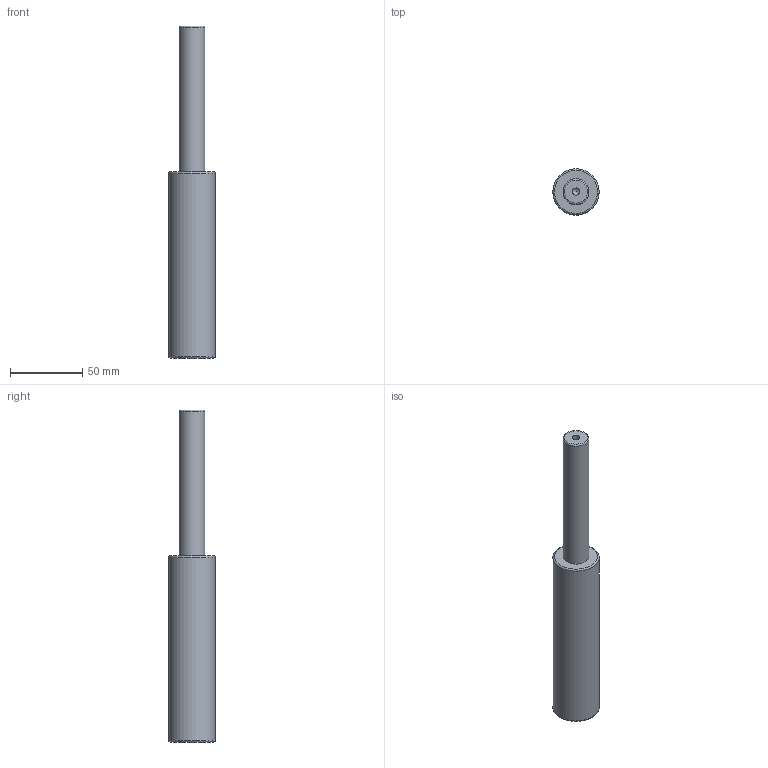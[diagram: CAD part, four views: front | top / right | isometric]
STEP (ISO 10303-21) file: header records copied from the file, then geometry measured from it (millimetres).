
FILE_DESCRIPTION(/* description */ (''),/* implementation_level */ '2;1');
FILE_NAME(/* name */ 'NV5-SMLX.32x100.stp',/* time_stamp */ '2018-08-31T16:08:37+02:00',/* author */ (''),/* organization */ (''),/* preprocessor_version */ 'ST-DEVELOPER v16',/* originating_system */ 'SIEMENS PLM Software NX 10.0',/* authorisation */ '');
FILE_SCHEMA (('AUTOMOTIVE_DESIGN { 1 0 10303 214 3 1 1 1 }'));
Length unit declared in the file: millimetre
Products named in the file (1): NV5-SMLX.32x100
Bounding box: 32 x 32 x 230 mm (x, y, z)
Volume: 128943.3 mm3; surface area: 20528.6 mm2
Topology: 1 solids, 1 shells, 12 faces, 24 edges, 15 vertices
Faces by surface type: cylinder 4, torus 3, plane 3, cone 2
Full cylindrical faces by diameter (mm): 5 x2, 18 x1, 32 x1
Entity records: 266 total; most frequent: DIRECTION 48, CARTESIAN_POINT 37, FACE_BOUND 24, AXIS2_PLACEMENT_3D 24, EDGE_LOOP 22, ORIENTED_EDGE 22, VERTEX_POINT 13, ADVANCED_FACE 12
